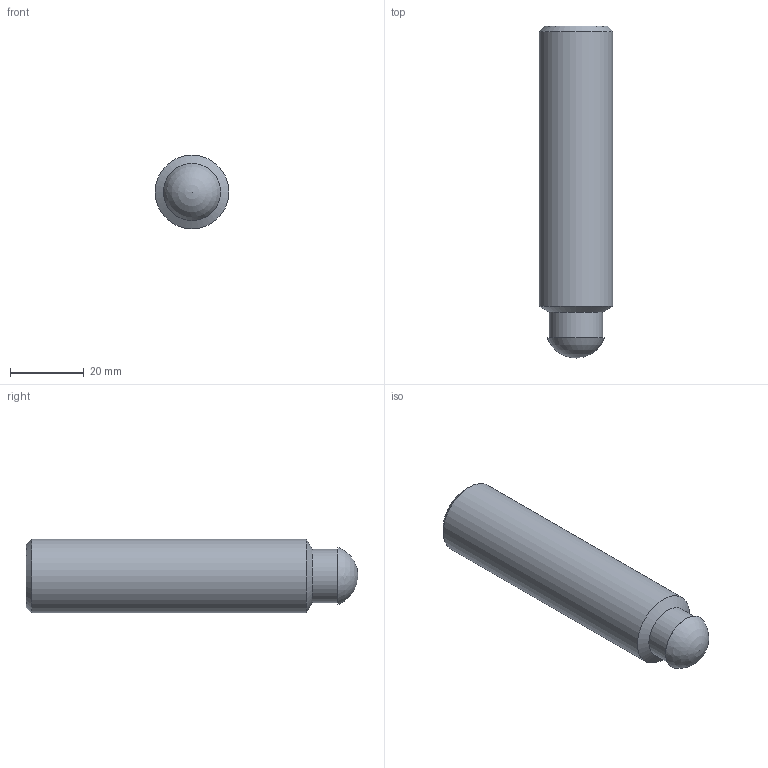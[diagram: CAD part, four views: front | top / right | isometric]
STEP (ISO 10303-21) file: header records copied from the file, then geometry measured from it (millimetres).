
FILE_DESCRIPTION( ( 'STEP AP203' ), '1' );
FILE_NAME( 'C:/Temp/Ganter_Step_05_03_2020/data/3_2/din6332/din6332/Grub screw DIN 6332-M20-90-SK.stp', '2020-03-13T05:16:25', ( 'License CC BY-ND 4.0' ), ( 'CADENAS' ), ' ', 'PARTsolutions', ' ' );
FILE_SCHEMA( ( 'CONFIG_CONTROL_DESIGN' ) );
Length unit declared in the file: millimetre
Products named in the file (1): _Grub screw DIN 6332-M20-90-SK
Bounding box: 20 x 90 x 20 mm (x, y, z)
Volume: 25482.7 mm3; surface area: 5999.9 mm2
Topology: 1 solids, 1 shells, 15 faces, 33 edges, 21 vertices
Faces by surface type: plane 9, cylinder 3, cone 2, sphere 1
Full cylindrical faces by diameter (mm): 14.4 x1, 15.5 x1, 20 x1
Entity records: 410 total; most frequent: DIRECTION 64, CARTESIAN_POINT 61, ORIENTED_EDGE 50, EDGE_CURVE 25, AXIS2_PLACEMENT_3D 23, EDGE_LOOP 22, VERTEX_POINT 20, FACE_OUTER_BOUND 18
